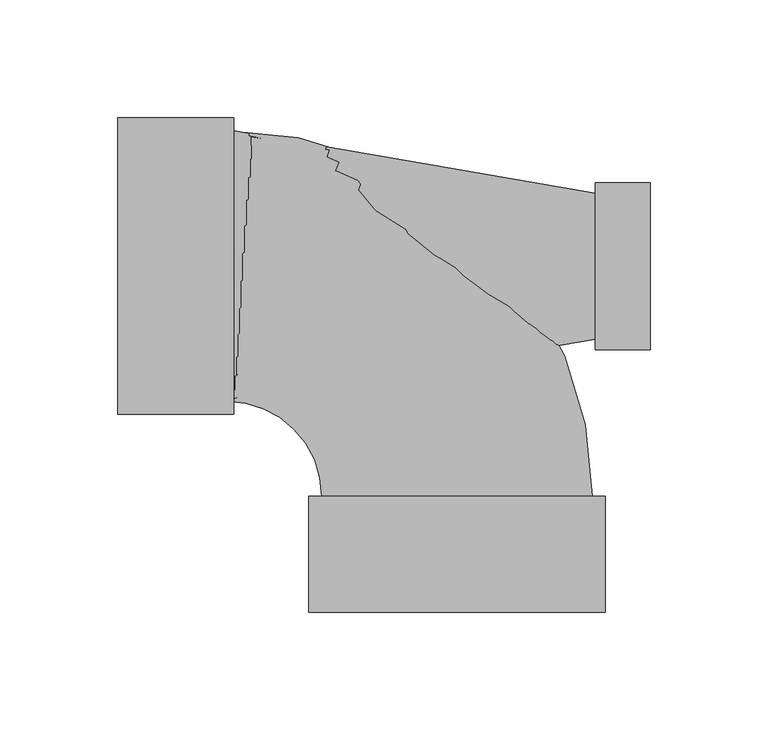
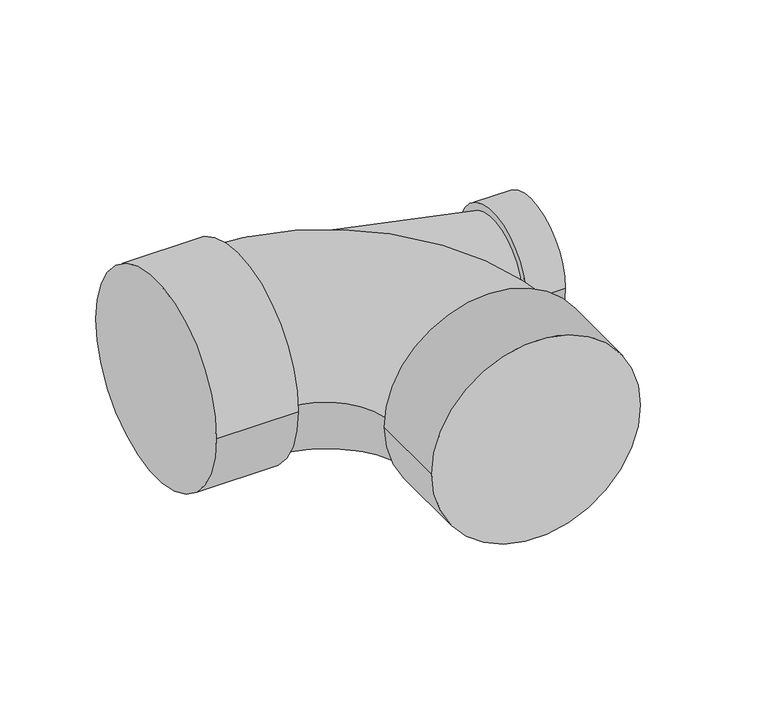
"""IFC4 building model written with IfcOpenShell, lengths in millimetres: pipe fitting geometry, M_Sanitario con te de reducción - PVC - Serie 40 - DWV : Estándar."""

from ifc_helpers import new_model, si_unit, point, frame, origin, place, context, project, spatial, polyline, circle_curve, ellipse_curve, trimmed, source, transform, mapped, element, save
from ifc_brep_helpers import plane_surface, cylinder_surface, revolved_surface, advanced_brep


def pipe_fitting_44a425ca(model_context):
    return source(origin(), model_context, "Body", "AdvancedBrep", [
        advanced_brep(
        [(58.601229, -35.4191094, 0.0), (58.601229, 35.4191094, 0.0), (58.601229, -30.9800625, 0.0), (58.601229, 30.9800625, 0.0), (81.9295415, -35.4191094, 0.0), (81.9295415, 35.4191094, 0.0), (-94.6584022, 57.3960625, 0.0), (-94.6584022, -57.3960625, 0.0), (-143.8947147, -62.8511094, 0.0), (-143.8947147, 62.8511094, 0.0), (-94.6584022, -62.8511094, 0.0), (-94.6584022, 62.8511094, 0.0)],
        [
            (0, 1, circle_curve(frame((58.601229, 0.0, 0.0), z_axis=(-1.0, 0.0, 0.0), x_axis=(0.0, 1.0, 0.0)), 35.4191094)),
            (1, 0, circle_curve(frame((58.601229, 0.0, 0.0), z_axis=(-1.0, 0.0, 0.0), x_axis=(0.0, 1.0, 0.0)), 35.4191094)),
            (2, 3, circle_curve(frame((58.601229, 0.0, 0.0), z_axis=(1.0, 0.0, 0.0), x_axis=(0.0, -1.0, 0.0)), 30.9800625)),
            (3, 2, circle_curve(frame((58.601229, 0.0, 0.0), z_axis=(1.0, 0.0, 0.0), x_axis=(0.0, 1.0, 0.0)), 30.9800625)),
            (4, 5, circle_curve(frame((81.9295415, 0.0, 0.0), z_axis=(1.0, 0.0, 0.0), x_axis=(0.0, 1.0, 0.0)), 35.4191094)),
            (5, 4, circle_curve(frame((81.9295415, 0.0, 0.0), z_axis=(1.0, 0.0, 0.0), x_axis=(0.0, 1.0, 0.0)), 35.4191094)),
            (0, 4),
            (5, 1),
            (6, 3),
            (2, 7),
            (7, 6, circle_curve(frame((-94.6584022, 0.0, 0.0), z_axis=(1.0, 0.0, 0.0), x_axis=(0.0, -1.0, 0.0)), 57.3960625)),
            (6, 7, circle_curve(frame((-94.6584022, 0.0, 0.0), z_axis=(1.0, 0.0, 0.0), x_axis=(0.0, 1.0, 0.0)), 57.3960625)),
            (8, 9, circle_curve(frame((-143.8947147, 0.0, 0.0), z_axis=(-1.0, 0.0, 0.0), x_axis=(0.0, 1.0, 0.0)), 62.8511094)),
            (9, 8, circle_curve(frame((-143.8947147, 0.0, 0.0), z_axis=(-1.0, 0.0, 0.0), x_axis=(0.0, 1.0, 0.0)), 62.8511094)),
            (10, 11, circle_curve(frame((-94.6584022, 0.0, 0.0), z_axis=(1.0, 0.0, 0.0), x_axis=(0.0, 1.0, 0.0)), 62.8511094)),
            (11, 10, circle_curve(frame((-94.6584022, 0.0, 0.0), z_axis=(1.0, 0.0, 0.0), x_axis=(0.0, 1.0, 0.0)), 62.8511094)),
            (8, 10),
            (11, 9),
        ],
        [
            plane_surface(frame((58.601229, 0.0, 0.0), z_axis=(-1.0, 0.0, 0.0), x_axis=(0.0, 0.0, 1.0))),
            plane_surface(frame((81.9295415, 0.0, 0.0), z_axis=(1.0, 0.0, 0.0), x_axis=(0.0, 0.0, 1.0))),
            cylinder_surface(frame((58.601229, 0.0, 0.0), z_axis=(-1.0, 0.0, 0.0), x_axis=(0.0, 1.0, 0.0)), 35.4191094),
            revolved_surface(polyline([(58.60122899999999, 30.98006250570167, 0.0), (-94.65840220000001, 57.3960625, 0.0)]), (238.3405141, 0.0, 0.0), (-1.0, 0.0, 0.0)),
            plane_surface(frame((-143.8947147, 0.0, 0.0), z_axis=(-1.0, 0.0, 0.0), x_axis=(0.0, 0.0, 1.0))),
            plane_surface(frame((-94.6584022, 0.0, 0.0), z_axis=(1.0, 0.0, 0.0), x_axis=(0.0, 0.0, 1.0))),
            cylinder_surface(frame((-143.8947147, 0.0, 0.0), z_axis=(-1.0, 0.0, 0.0), x_axis=(0.0, 1.0, 0.0)), 62.8511094),
        ],
        [
            (0, [[1, 2], [3, 4]]),
            (1, [[5, 6]]),
            (2, [[-1, 7, -6, 8]]),
            (2, [[-2, -8, -5, -7]]),
            (3, [[9, -3, 10, 11]]),
            (3, [[-9, 12, -10, -4]]),
            (4, [[13, 14]]),
            (5, [[15, 16], [-11, -12]]),
            (6, [[-13, 17, -16, 18]]),
            (6, [[-14, -18, -15, -17]]),
        ],
    ),
        advanced_brep(
        [(-62.8511094, -97.5796563, 0.0), (62.8511094, -97.5796563, 0.0), (57.3960625, -97.5796563, 0.0), (-57.3960625, -97.5796563, 0.0), (-62.8511094, -146.8159688, 0.0), (62.8511094, -146.8159688, 0.0), (-97.5796562, -57.3960625, 0.0), (-97.5796562, 57.3960625, 0.0)],
        [
            (0, 1, circle_curve(frame((0.0, -97.5796563, 0.0), z_axis=(0.0, 1.0, 0.0), x_axis=(1.0, 0.0, 0.0)), 62.8511094)),
            (1, 0, circle_curve(frame((0.0, -97.5796563, 0.0), z_axis=(0.0, 1.0, 0.0), x_axis=(1.0, 0.0, 0.0)), 62.8511094)),
            (2, 3, circle_curve(frame((0.0, -97.5796563, 0.0), z_axis=(0.0, -1.0, 0.0), x_axis=(1.0, 0.0, 0.0)), 57.3960625)),
            (3, 2, circle_curve(frame((0.0, -97.5796563, 0.0), z_axis=(0.0, -1.0, 0.0), x_axis=(1.0, 0.0, 0.0)), 57.3960625)),
            (4, 5, circle_curve(frame((0.0, -146.8159688, 0.0), z_axis=(0.0, -1.0, 0.0), x_axis=(1.0, 0.0, 0.0)), 62.8511094)),
            (5, 4, circle_curve(frame((0.0, -146.8159688, 0.0), z_axis=(0.0, -1.0, 0.0), x_axis=(1.0, 0.0, 0.0)), 62.8511094)),
            (0, 4),
            (5, 1),
            (6, 7, circle_curve(frame((-97.5796562, 0.0, 0.0), z_axis=(-1.0, 0.0, 0.0), x_axis=(0.0, 1.0, 0.0)), 57.3960625)),
            (7, 6, circle_curve(frame((-97.5796562, 0.0, 0.0), z_axis=(-1.0, 0.0, 0.0), x_axis=(0.0, 1.0, 0.0)), 57.3960625)),
            (6, 3, circle_curve(frame((-97.5796562, -97.5796563, 0.0), z_axis=(0.0, 0.0, -1.0), x_axis=(0.0, 1.0, 0.0)), 40.1835938)),
            (2, 7, circle_curve(frame((-97.5796562, -97.5796563, 0.0), z_axis=(0.0, 0.0, 1.0), x_axis=(0.0, 1.0, 0.0)), 154.9757188)),
        ],
        [
            plane_surface(frame((0.0, -97.5796563, 0.0), z_axis=(0.0, 1.0, 0.0), x_axis=(0.0, 0.0, 1.0))),
            plane_surface(frame((0.0, -146.8159688, 0.0), z_axis=(0.0, -1.0, 0.0), x_axis=(0.0, 0.0, 1.0))),
            cylinder_surface(frame((0.0, -97.5796563, 0.0), z_axis=(0.0, 1.0, 0.0), x_axis=(1.0, 0.0, 0.0)), 62.8511094),
            plane_surface(frame((-97.5796562, 0.0, 0.0), z_axis=(-1.0, 0.0, 0.0), x_axis=(0.0, 0.0, 1.0))),
            revolved_surface(trimmed(ellipse_curve(frame((-97.5796562, 0.0, 0.0), z_axis=(-1.0, 0.0, 0.0), x_axis=(0.0, 1.0, 0.0)), 57.3960625, 57.3960625), [point((-97.5796562, -57.3960625, 0.0))], [point((-97.5796562, 57.3960625, 0.0))], True, "CARTESIAN"), (-97.5796562, -97.5796563, 0.0), (0.0, 0.0, -1.0)),
            revolved_surface(trimmed(ellipse_curve(frame((-97.5796562, 0.0, 0.0), z_axis=(-1.0, 0.0, 0.0), x_axis=(0.0, 1.0, 0.0)), 57.3960625, 57.3960625), [point((-97.5796562, 57.3960625, 0.0))], [point((-97.5796562, -57.3960625, 0.0))], True, "CARTESIAN"), (-97.5796562, -97.5796563, 0.0), (0.0, 0.0, -1.0)),
        ],
        [
            (0, [[1, 2], [3, 4]]),
            (1, [[5, 6]]),
            (2, [[-1, 7, -6, 8]]),
            (2, [[-2, -8, -5, -7]]),
            (3, [[9, 10]]),
            (4, [[-9, 11, -3, 12]]),
            (5, [[-10, -12, -4, -11]]),
        ],
    ),
    ])


if __name__ == "__main__":
    model = new_model("IFC4")
    model_context = context("Model", 3, world=origin())
    ifc_project = project(units=[si_unit("LENGTHUNIT", "METRE", prefix="MILLI")], contexts=[model_context])
    site = spatial("IfcSite", under=ifc_project)
    building = spatial("IfcBuilding", under=site)
    placement = place(None, origin())
    pipe_fitting_shape = pipe_fitting_44a425ca(model_context)
    element("IfcPipeFitting", 1, ObjectType="M_Sanitario con te de reducción - PVC - Serie 40 - DWV : Estándar", at=placement, inside=building, context=model_context, shape_type="MappedRepresentation", body=[
        mapped(pipe_fitting_shape, transform((0.0, 0.0, 0.0), x_axis=(1.0, 0.0, 0.0), y_axis=(0.0, 1.0, 0.0), z_axis=(0.0, 0.0, 1.0))),
    ])
    save(model, "model.ifc")
